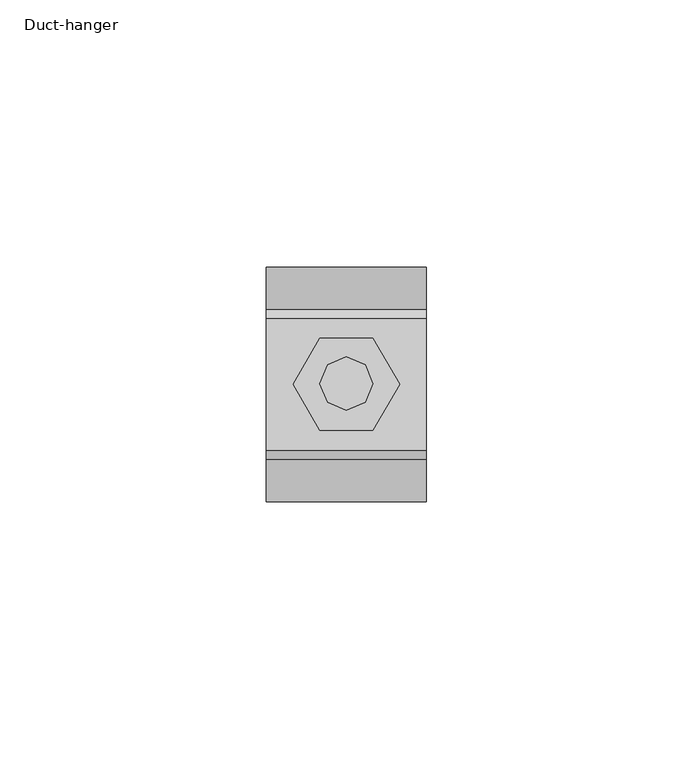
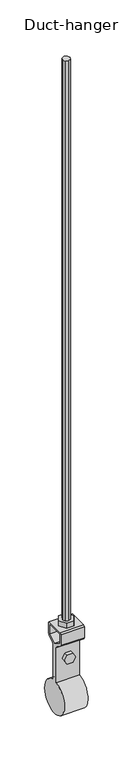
"""IFC4 building model written with IfcOpenShell, lengths in millimetres: proxy geometry, Duct-hanger : Φ44."""

import ifcopenshell
import ifcopenshell.guid

model = None  # the IFC model being written
_history = None  # IfcOwnerHistory: only IFC2X3 demands one
_inside = {}  # id of a spatial element -> (the spatial element, [elements in it])
_under = {}  # id of a project, library or spatial element -> (it, [spatial elements below it])
_declared = {}  # id of a project -> (the project, [libraries it declares])
_typed = {}  # id of a type object -> (the type object, [elements of that type])
_made_of = {}  # id of a material, layer set ... -> (it, [elements and type objects made of it])


def new_model(schema):
    """Start an empty IFC model of exactly this schema.

    Asked for "IFC4X3", IfcOpenShell would pick the latest addendum, in which some entities
    have other attributes; the version numbers below select the first issue.
    IFC2X3 requires an IfcOwnerHistory on every rooted entity: one is made here for all.
    """
    global model, _history
    if schema == "IFC4X3":
        model = ifcopenshell.file(schema_version=(4, 3, 0, 0))
    else:
        model = ifcopenshell.file(schema=schema)
    _inside.clear()
    _under.clear()
    _declared.clear()
    _typed.clear()
    _made_of.clear()
    _history = None
    if model.schema == "IFC2X3":
        org = make("IfcOrganization", Name="unknown")
        user = make(
            "IfcPersonAndOrganization",
            ThePerson=make("IfcPerson", FamilyName="unknown"),
            TheOrganization=org,
        )
        app = make(
            "IfcApplication",
            ApplicationDeveloper=org,
            Version="unknown",
            ApplicationFullName="unknown",
            ApplicationIdentifier="unknown",
        )
        _history = make(
            "IfcOwnerHistory",
            OwningUser=user,
            OwningApplication=app,
            ChangeAction="ADDED",
            CreationDate=0,
        )
    return model


def make(cls, **values):
    """One entity of the class cls with the attributes given. An attribute that is None is left unset."""
    return model.create_entity(
        cls, **{name: value for name, value in values.items() if value is not None}
    )


def rooted(cls, **values):
    """An entity with a GlobalId (a new one), such as an element, a storey or a relation."""
    return make(cls, GlobalId=ifcopenshell.guid.new(), OwnerHistory=_history, **values)


def si_unit(unit_type, name, prefix=None):
    """IfcSIUnit, for example si_unit("LENGTHUNIT", "METRE", prefix="MILLI")."""
    return make("IfcSIUnit", UnitType=unit_type, Prefix=prefix, Name=name)


def assignment(units):
    """IfcUnitAssignment: the units of a project."""
    return None if units is None else make("IfcUnitAssignment", Units=units)


def point(xyz):
    """IfcCartesianPoint."""
    return None if xyz is None else make("IfcCartesianPoint", Coordinates=xyz)


def direction(xyz):
    """IfcDirection."""
    return None if xyz is None else make("IfcDirection", DirectionRatios=xyz)


def frame(location, z_axis=None, x_axis=None):
    """IfcAxis2Placement3D, a coordinate frame: its origin and axes. An axis left out is left unset."""
    return make(
        "IfcAxis2Placement3D",
        Location=point(location),
        Axis=direction(z_axis),
        RefDirection=direction(x_axis),
    )


def frame_2d(location, x_axis=None):
    """IfcAxis2Placement2D, a coordinate frame in the plane: its origin and x axis."""
    return make(
        "IfcAxis2Placement2D", Location=point(location), RefDirection=direction(x_axis)
    )


def origin():
    """The frame at (0, 0, 0) with its axes left unset."""
    return frame((0.0, 0.0, 0.0))


def place(relative_to, where):
    """IfcLocalPlacement: puts the frame where relative to a parent placement (None: the world)."""
    return make(
        "IfcLocalPlacement", PlacementRelTo=relative_to, RelativePlacement=where
    )


def context(
    kind, dimensions, precision=None, world=None, true_north=None, identifier=None
):
    """IfcGeometricRepresentationContext, for example the 3D "Model" context."""
    return make(
        "IfcGeometricRepresentationContext",
        ContextIdentifier=identifier,
        ContextType=kind,
        CoordinateSpaceDimension=dimensions,
        Precision=precision,
        WorldCoordinateSystem=world,
        TrueNorth=true_north,
    )


def project(units=None, contexts=None):
    """IfcProject with its units and contexts."""
    return rooted(
        "IfcProject",
        Name="project",
        RepresentationContexts=contexts,
        UnitsInContext=assignment(units),
    )


def spatial(cls, under=None, at=None, **own):
    """A site, building, storey or space (cls), placed at a placement, below another one or the project."""
    s = rooted(cls, ObjectPlacement=at, **own)
    if under is not None:
        _under.setdefault(under.id(), (under, []))[1].append(s)
    return s


def polyline(points):
    """IfcPolyline through the points."""
    return make("IfcPolyline", Points=[point(p) for p in points])


def circle_curve(where, radius):
    """IfcCircle in the frame where."""
    return make("IfcCircle", Position=where, Radius=radius)


def trimmed(basis, trim1, trim2, sense, master):
    """IfcTrimmedCurve: the piece of a basis curve between two trims."""
    return make(
        "IfcTrimmedCurve",
        BasisCurve=basis,
        Trim1=trim1,
        Trim2=trim2,
        SenseAgreement=sense,
        MasterRepresentation=master,
    )


def segment(curve, same_sense, transition):
    """IfcCompositeCurveSegment."""
    return make(
        "IfcCompositeCurveSegment",
        Transition=transition,
        SameSense=same_sense,
        ParentCurve=curve,
    )


def composite_curve(segments, self_intersect=None):
    """IfcCompositeCurve: segments joined end to end."""
    return make("IfcCompositeCurve", Segments=segments, SelfIntersect=self_intersect)


def outline(outer, holes=None, kind="AREA"):
    """IfcArbitraryClosedProfileDef: a profile drawn as a closed curve; with holes, ...WithVoids."""
    if holes is None:
        return make("IfcArbitraryClosedProfileDef", ProfileType=kind, OuterCurve=outer)
    return make(
        "IfcArbitraryProfileDefWithVoids",
        ProfileType=kind,
        OuterCurve=outer,
        InnerCurves=holes,
    )


def extrude(swept, where, along, depth):
    """IfcExtrudedAreaSolid: the profile swept, set in the frame where, extruded along a direction by depth."""
    return make(
        "IfcExtrudedAreaSolid",
        SweptArea=swept,
        Position=where,
        ExtrudedDirection=direction(along),
        Depth=depth,
    )


def shape(context_of_items, identifier, shape_type, items):
    """IfcShapeRepresentation: the items that make up one representation, for example the "Body"."""
    return make(
        "IfcShapeRepresentation",
        ContextOfItems=context_of_items,
        RepresentationIdentifier=identifier,
        RepresentationType=shape_type,
        Items=items,
    )


def source(mapping_origin, context_of_items, identifier, shape_type, items):
    """IfcRepresentationMap: a shape defined once, which mapped items show again and again."""
    return make(
        "IfcRepresentationMap",
        MappingOrigin=mapping_origin,
        MappedRepresentation=shape(context_of_items, identifier, shape_type, items),
    )


def transform(
    local_origin,
    x_axis=None,
    y_axis=None,
    z_axis=None,
    scale=None,
    scale2=None,
    scale3=None,
    uniform=True,
):
    """IfcCartesianTransformationOperator3D, or its non-uniform kind. x_axis, y_axis, z_axis: its Axis1, 2, 3."""
    if uniform:
        return make(
            "IfcCartesianTransformationOperator3D",
            Axis1=direction(x_axis),
            Axis2=direction(y_axis),
            LocalOrigin=point(local_origin),
            Scale=scale,
            Axis3=direction(z_axis),
        )
    return make(
        "IfcCartesianTransformationOperator3DnonUniform",
        Axis1=direction(x_axis),
        Axis2=direction(y_axis),
        LocalOrigin=point(local_origin),
        Scale=scale,
        Axis3=direction(z_axis),
        Scale2=scale2,
        Scale3=scale3,
    )


def mapped(mapping_source, mapping_target):
    """IfcMappedItem: shows the shape of a source again, moved by a transform."""
    return make(
        "IfcMappedItem", MappingSource=mapping_source, MappingTarget=mapping_target
    )


def made_of(thing, what):
    """Note that an element or type object is made of a material, layer set ...; save() writes the relation."""
    if what is not None:
        _made_of.setdefault(what.id(), (what, []))[1].append(thing)
    return thing


def element(
    cls,
    number,
    at=None,
    inside=None,
    cuts=None,
    type_object=None,
    material=None,
    context=None,
    identifier="Body",
    shape_type=None,
    held_by="IfcProductDefinitionShape",
    body=None,
    shapes=None,
    **own,
):
    """One element of the class cls, such as IfcWall. Its Tag is "e" and its number.

    at: its placement. inside: the storey or other place that contains it. cuts: it is an
    opening in that element (IfcRelVoidsElement). A single representation is given by context,
    identifier, shape_type and body (its items); several are given by shapes. held_by: the class
    of the entity that holds the representations. save() writes the other relations.
    """
    e = rooted(cls, Tag="e%d" % number, ObjectPlacement=at, **own)
    if body is not None:
        shapes = [shape(context, identifier, shape_type, body)]
    if shapes is not None:
        e.Representation = make(held_by, Representations=shapes)
    if inside is not None:
        _inside.setdefault(inside.id(), (inside, []))[1].append(e)
    if cuts is not None:
        rooted(
            "IfcRelVoidsElement", RelatingBuildingElement=cuts, RelatedOpeningElement=e
        )
    if type_object is not None:
        _typed.setdefault(type_object.id(), (type_object, []))[1].append(e)
    return made_of(e, material)


def aggregate(whole, parts):
    """IfcRelAggregates: a whole, such as a stair, and the parts it consists of."""
    return rooted("IfcRelAggregates", RelatingObject=whole, RelatedObjects=parts)


def save(model, path):
    """Write the relations noted so far, then the file.

    IfcRelAggregates (storeys below a building ...), IfcRelContainedInSpatialStructure (elements
    in a storey), IfcRelDefinesByType, IfcRelAssociatesMaterial and IfcRelDeclares: one each for
    every whole, place, type object, material and project.
    """
    for whole, parts in _under.values():
        aggregate(whole, parts)
    for where, things in _inside.values():
        rooted(
            "IfcRelContainedInSpatialStructure",
            RelatedElements=things,
            RelatingStructure=where,
        )
    for kind, things in _typed.values():
        rooted("IfcRelDefinesByType", RelatedObjects=things, RelatingType=kind)
    for what, things in _made_of.values():
        rooted("IfcRelAssociatesMaterial", RelatedObjects=things, RelatingMaterial=what)
    for by, libraries in _declared.values():
        rooted("IfcRelDeclares", RelatingContext=by, RelatedDefinitions=libraries)
    model.write(path)


def duct_hanger_ef9378de(model_context):
    return source(origin(), model_context, "Body", "SweptSolid", [
        extrude(outline(polyline([(3.5351563, 3.5351563), (5.0003052, 0.0), (3.5351563, -3.5351563), (0.0, -5.0), (-3.5354614, -3.5351563), (-5.0, 0.0), (-3.5354614, 3.5351563), (0.0, 5.0), (3.5351563, 3.5351563)])), frame((0.0, 0.0, -765.7220985), z_axis=(0.0, 0.0, 1.0), x_axis=(1.0, 0.0, 0.0)), (0.0, 0.0, 1.0), 765.7220985),
        extrude(outline(polyline([(5.0, 8.659668), (10.0, 0.0), (5.0, -8.659668), (-5.0, -8.659668), (-10.0, 0.0), (-5.0, 8.659668), (5.0, 8.659668)])), frame((0.0, 0.0, -765.7220985), z_axis=(0.0, 0.0, 1.0), x_axis=(1.0, 0.0, 0.0)), (0.0, 0.0, 1.0), 6.6101074),
        extrude(outline(polyline([(-802.7374282, -3.5931396), (-808.9608779, -7.1862793), (-815.1843276, -3.5931396), (-815.1843276, 3.5931396), (-808.9608779, 7.1862793), (-802.7374282, 3.5931396), (-802.7374282, -3.5931396)])), frame((0.0, -8.2446289, 0.0), z_axis=(0.0, 1.0, 0.0), x_axis=(0.0, 0.0, 1.0)), (0.0, 0.0, 1.0), 16.4892578),
        extrude(outline(composite_curve([segment(polyline([(14.0234375, -767.3907997), (14.0234375, -782.0404579), (12.8845215, -784.1068031), (4.6337891, -789.3146278), (3.494873, -791.3815834), (3.494873, -838.9608779)]), True, "CONTINUOUS"), segment(trimmed(circle_curve(frame_2d((0.0, -860.6815101)), 22.0), [point((3.494873, -838.9608779))], [point((-3.494873, -838.9608779))], False, "CARTESIAN"), True, "CONTINUOUS"), segment(polyline([(-3.494873, -838.9608779), (-3.494873, -791.3815834), (-4.6337891, -789.3146278), (-12.8845215, -784.1068031), (-14.0234375, -782.0404579), (-14.0234375, -767.3907997), (-12.3547363, -765.7220985), (12.3547363, -765.7220985), (14.0234375, -767.3907997)]), True, "CONTINUOUS")], self_intersect=False), holes=[polyline([(0.0, -787.9884748), (10.7531738, -781.2018348), (10.7531738, -768.9755775), (-10.7531738, -768.9755775), (-10.7531738, -781.2018348), (0.0, -787.9884748)])]), frame((-15.0, 0.0, 0.0), z_axis=(1.0, 0.0, 0.0), x_axis=(0.0, 1.0, 0.0)), (0.0, 0.0, 1.0), 30.0),
    ])


if __name__ == "__main__":
    model = new_model("IFC4")
    model_context = context("Model", 3, world=origin())
    ifc_project = project(units=[si_unit("LENGTHUNIT", "METRE", prefix="MILLI")], contexts=[model_context])
    site = spatial("IfcSite", under=ifc_project)
    building = spatial("IfcBuilding", under=site)
    placement = place(None, origin())
    duct_hanger_shape = duct_hanger_ef9378de(model_context)
    element("IfcBuildingElementProxy", 1, Name="Duct-hanger : Φ44", ObjectType="Duct-hanger : Φ44", at=placement, inside=building, context=model_context, shape_type="MappedRepresentation", body=[
        mapped(duct_hanger_shape, transform((0.0, 0.0, 0.0), x_axis=(1.0, 0.0, 0.0), y_axis=(0.0, 1.0, 0.0), z_axis=(0.0, 0.0, 1.0))),
    ])
    save(model, "model.ifc")
